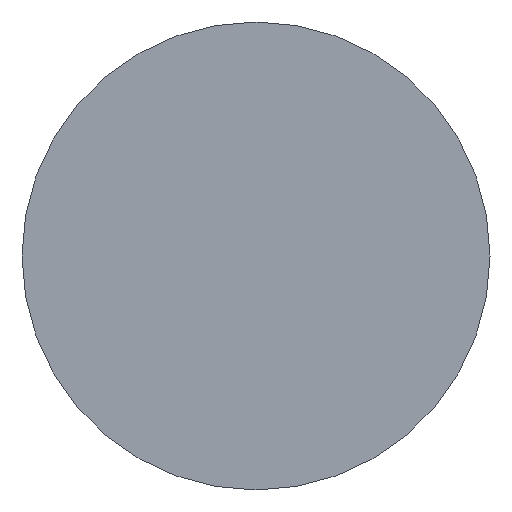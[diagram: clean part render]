
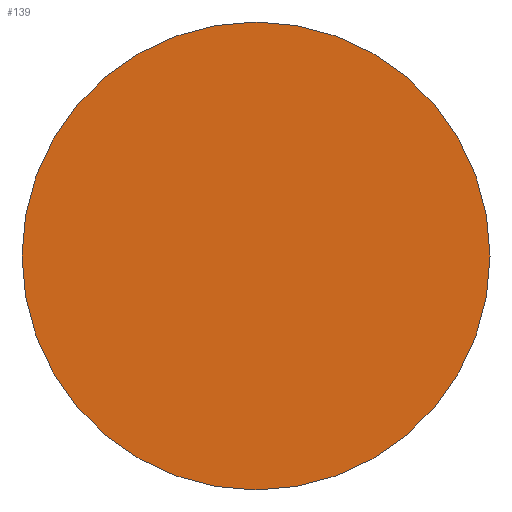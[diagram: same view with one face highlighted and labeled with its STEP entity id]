
A CAD part, left-side view. The second image highlights one B-rep face of the part: STEP entity #139.
In plain terms, the highlighted planar face has unit normal (-1, 0, 0).
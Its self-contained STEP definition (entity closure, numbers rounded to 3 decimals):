
#31 = CYLINDRICAL_SURFACE('',#32,2.85);
#32 = AXIS2_PLACEMENT_3D('',#33,#34,#35);
#33 = CARTESIAN_POINT('',(-55.15,37.,244.5));
#34 = DIRECTION('',(1.,0.,0.));
#35 = DIRECTION('',(0.,0.,1.));
#56 = VERTEX_POINT('',#57);
#57 = CARTESIAN_POINT('',(-55.15,37.,241.65));
#77 = EDGE_CURVE('',#56,#56,#78,.T.);
#78 = SURFACE_CURVE('',#79,(#84,#91),.PCURVE_S1.);
#79 = CIRCLE('',#80,2.85);
#80 = AXIS2_PLACEMENT_3D('',#81,#82,#83);
#81 = CARTESIAN_POINT('',(-55.15,37.,244.5));
#82 = DIRECTION('',(1.,-0.,0.));
#83 = DIRECTION('',(0.,0.,-1.));
#84 = PCURVE('',#31,#85);
#85 = DEFINITIONAL_REPRESENTATION('',(#86),#90);
#86 = LINE('',#87,#88);
#87 = CARTESIAN_POINT('',(3.142,0.));
#88 = VECTOR('',#89,1.);
#89 = DIRECTION('',(1.,0.));
#90 = ( GEOMETRIC_REPRESENTATION_CONTEXT(2) 
PARAMETRIC_REPRESENTATION_CONTEXT() REPRESENTATION_CONTEXT('2D SPACE',''
  ) );
#91 = PCURVE('',#92,#97);
#92 = PLANE('',#93);
#93 = AXIS2_PLACEMENT_3D('',#94,#95,#96);
#94 = CARTESIAN_POINT('',(-55.15,37.,244.5));
#95 = DIRECTION('',(1.,0.,0.));
#96 = DIRECTION('',(0.,0.,1.));
#97 = DEFINITIONAL_REPRESENTATION('',(#98),#102);
#98 = CIRCLE('',#99,2.85);
#99 = AXIS2_PLACEMENT_2D('',#100,#101);
#100 = CARTESIAN_POINT('',(0.,0.));
#101 = DIRECTION('',(-1.,0.));
#102 = ( GEOMETRIC_REPRESENTATION_CONTEXT(2) 
PARAMETRIC_REPRESENTATION_CONTEXT() REPRESENTATION_CONTEXT('2D SPACE',''
  ) );
#139 = ADVANCED_FACE('',(#140),#92,.F.);
#140 = FACE_BOUND('',#141,.T.);
#141 = EDGE_LOOP('',(#142));
#142 = ORIENTED_EDGE('',*,*,#77,.F.);
